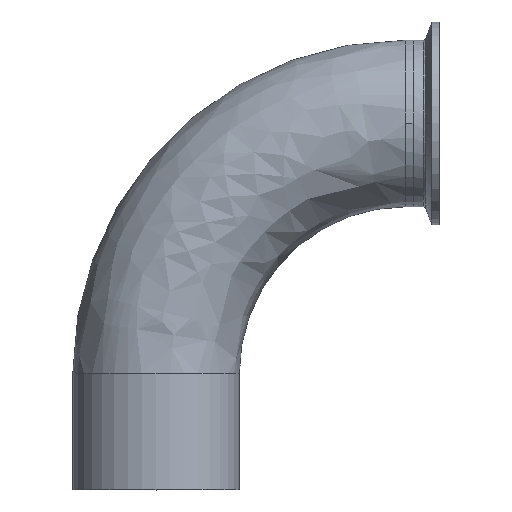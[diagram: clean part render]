
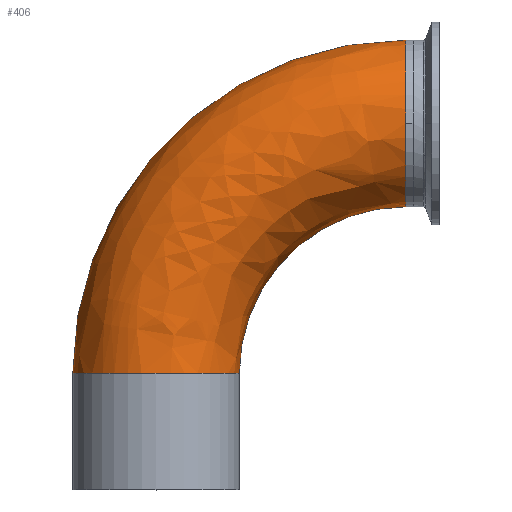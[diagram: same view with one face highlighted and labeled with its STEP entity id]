
A CAD part, top view. The second image highlights one B-rep face of the part: STEP entity #406.
In plain terms, the highlighted free-form (B-spline) face has degree [3, 3] with [4, 4] control points.
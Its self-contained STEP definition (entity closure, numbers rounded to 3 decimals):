
#37 = ORIENTED_EDGE ( 'NONE', *, *, #361, .T. ) ;
#102 = CARTESIAN_POINT ( 'NONE',  ( 31.75, 81.647, 63.5 ) ) ;
#165 = CARTESIAN_POINT ( 'NONE',  ( 95.25, 139.7, 31.75 ) ) ;
#171 = AXIS2_PLACEMENT_3D ( 'NONE', #1580, #1593, #1605 ) ;
#173 = ORIENTED_EDGE ( 'NONE', *, *, #936, .T. ) ;
#186 = EDGE_CURVE ( 'NONE', #497, #1474, #1939, .T. ) ;
#246 = ORIENTED_EDGE ( 'NONE', *, *, #1987, .T. ) ;
#343 = CARTESIAN_POINT ( 'NONE',  ( 95.25, 107.95, 0. ) ) ;
#361 = EDGE_CURVE ( 'NONE', #1043, #497, #583, .T. ) ;
#369 = CARTESIAN_POINT ( 'NONE',  ( 95.25, 44.45, 0. ) ) ;
#380 = CARTESIAN_POINT ( 'NONE',  ( 95.25, 107.95, 0. ) ) ;
#382 = CARTESIAN_POINT ( 'NONE',  ( 95.25, 44.45, 0. ) ) ;
#392 = VERTEX_POINT ( 'NONE', #1095 ) ;
#406 = ADVANCED_FACE ( 'NONE', ( #1401 ), #419, .T. ) ;
#419 =( BOUNDED_SURFACE ( )  B_SPLINE_SURFACE ( 3, 3, ( 
 ( #1942, #1670, #1731, #1914 ),
 ( #1461, #1196, #483, #1313 ),
 ( #786, #102, #1614, #663 ),
 ( #1631, #593, #641, #343 ) ),
 .UNSPECIFIED., .F., .F., .F. ) 
 B_SPLINE_SURFACE_WITH_KNOTS ( ( 4, 4 ),
 ( 4, 4 ),
 ( 0., 1. ),
 ( 0., 1. ),
 .UNSPECIFIED. ) 
 GEOMETRIC_REPRESENTATION_ITEM ( )  RATIONAL_B_SPLINE_SURFACE ( (
 ( 1., 0.805, 0.805, 1.),
 ( 0.333, 0.268, 0.268, 0.333),
 ( 0.333, 0.268, 0.268, 0.333),
 ( 1., 0.805, 0.805, 1.) ) ) 
 REPRESENTATION_ITEM ( '' )  SURFACE ( )  );
#428 = CIRCLE ( 'NONE', #476, 127. ) ;
#444 = AXIS2_PLACEMENT_3D ( 'NONE', #666, #676, #679 ) ;
#476 = AXIS2_PLACEMENT_3D ( 'NONE', #369, #1743, #1635 ) ;
#483 = CARTESIAN_POINT ( 'NONE',  ( 20.855, 171.45, 63.5 ) ) ;
#492 = EDGE_CURVE ( 'NONE', #746, #1474, #428, .T. ) ;
#496 = AXIS2_PLACEMENT_3D ( 'NONE', #382, #525, #919 ) ;
#497 = VERTEX_POINT ( 'NONE', #165 ) ;
#525 = DIRECTION ( 'NONE',  ( 0., 0., -1. ) ) ;
#583 = CIRCLE ( 'NONE', #1057, 31.75 ) ;
#593 = CARTESIAN_POINT ( 'NONE',  ( 31.75, 81.647, 0. ) ) ;
#641 = CARTESIAN_POINT ( 'NONE',  ( 58.053, 107.95, 0. ) ) ;
#663 = CARTESIAN_POINT ( 'NONE',  ( 95.25, 107.95, 63.5 ) ) ;
#666 = CARTESIAN_POINT ( 'NONE',  ( 0., 44.45, 0. ) ) ;
#676 = DIRECTION ( 'NONE',  ( 0., 1., 0. ) ) ;
#679 = DIRECTION ( 'NONE',  ( -1., 0., 0. ) ) ;
#746 = VERTEX_POINT ( 'NONE', #909 ) ;
#786 = CARTESIAN_POINT ( 'NONE',  ( 31.75, 44.45, 63.5 ) ) ;
#871 = CIRCLE ( 'NONE', #444, 31.75 ) ;
#909 = CARTESIAN_POINT ( 'NONE',  ( -31.75, 44.45, 0. ) ) ;
#919 = DIRECTION ( 'NONE',  ( -1., 0., 0. ) ) ;
#936 = EDGE_CURVE ( 'NONE', #392, #1043, #1126, .T. ) ;
#1043 = VERTEX_POINT ( 'NONE', #380 ) ;
#1057 = AXIS2_PLACEMENT_3D ( 'NONE', #1177, #1971, #1262 ) ;
#1095 = CARTESIAN_POINT ( 'NONE',  ( 31.75, 44.45, 0. ) ) ;
#1113 = ORIENTED_EDGE ( 'NONE', *, *, #186, .T. ) ;
#1126 = CIRCLE ( 'NONE', #496, 63.5 ) ;
#1177 = CARTESIAN_POINT ( 'NONE',  ( 95.25, 139.7, 0. ) ) ;
#1196 = CARTESIAN_POINT ( 'NONE',  ( -31.75, 118.845, 63.5 ) ) ;
#1260 = ORIENTED_EDGE ( 'NONE', *, *, #492, .F. ) ;
#1262 = DIRECTION ( 'NONE',  ( 0., 1., 0. ) ) ;
#1272 = CARTESIAN_POINT ( 'NONE',  ( 95.25, 171.45, 0. ) ) ;
#1313 = CARTESIAN_POINT ( 'NONE',  ( 95.25, 171.45, 63.5 ) ) ;
#1401 = FACE_OUTER_BOUND ( 'NONE', #1734, .T. ) ;
#1461 = CARTESIAN_POINT ( 'NONE',  ( -31.75, 44.45, 63.5 ) ) ;
#1474 = VERTEX_POINT ( 'NONE', #1272 ) ;
#1580 = CARTESIAN_POINT ( 'NONE',  ( 95.25, 139.7, 0. ) ) ;
#1593 = DIRECTION ( 'NONE',  ( -1., 0., 0. ) ) ;
#1605 = DIRECTION ( 'NONE',  ( 0., 1., 0. ) ) ;
#1614 = CARTESIAN_POINT ( 'NONE',  ( 58.053, 107.95, 63.5 ) ) ;
#1631 = CARTESIAN_POINT ( 'NONE',  ( 31.75, 44.45, 0. ) ) ;
#1635 = DIRECTION ( 'NONE',  ( -1., 0., 0. ) ) ;
#1670 = CARTESIAN_POINT ( 'NONE',  ( -31.75, 118.845, 0. ) ) ;
#1731 = CARTESIAN_POINT ( 'NONE',  ( 20.855, 171.45, 0. ) ) ;
#1734 = EDGE_LOOP ( 'NONE', ( #246, #173, #37, #1113, #1260 ) ) ;
#1743 = DIRECTION ( 'NONE',  ( 0., 0., -1. ) ) ;
#1914 = CARTESIAN_POINT ( 'NONE',  ( 95.25, 171.45, 0. ) ) ;
#1939 = CIRCLE ( 'NONE', #171, 31.75 ) ;
#1942 = CARTESIAN_POINT ( 'NONE',  ( -31.75, 44.45, 0. ) ) ;
#1971 = DIRECTION ( 'NONE',  ( -1., 0., 0. ) ) ;
#1987 = EDGE_CURVE ( 'NONE', #746, #392, #871, .T. ) ;
